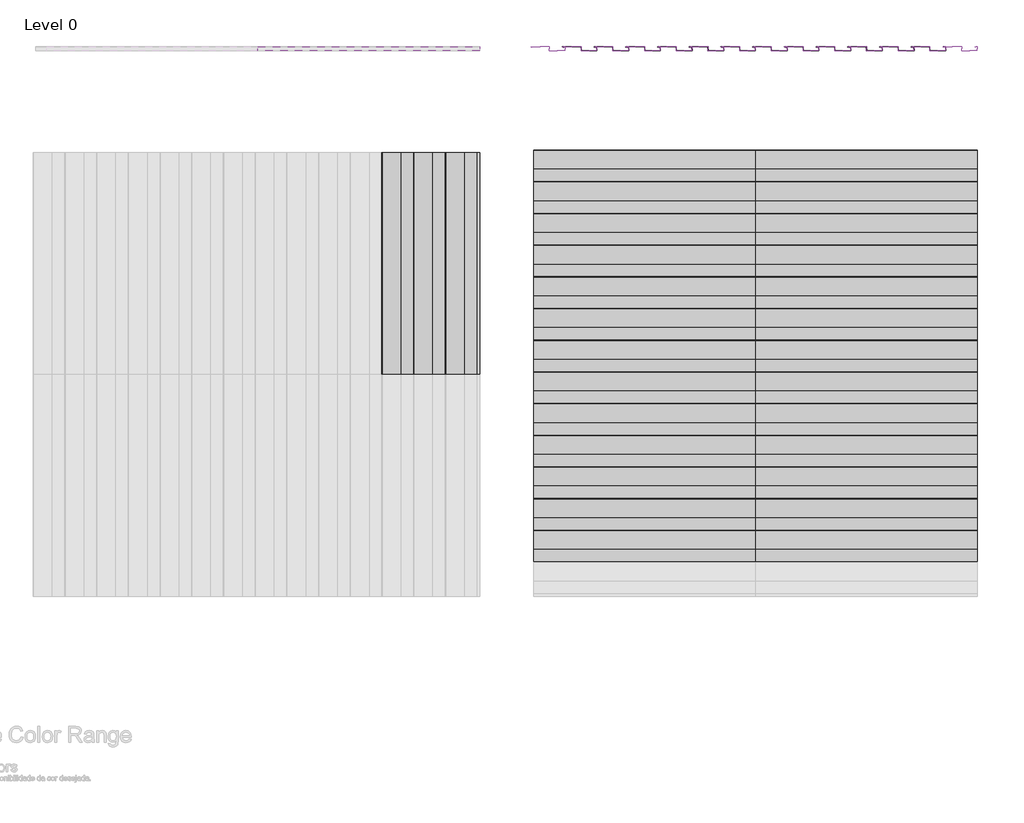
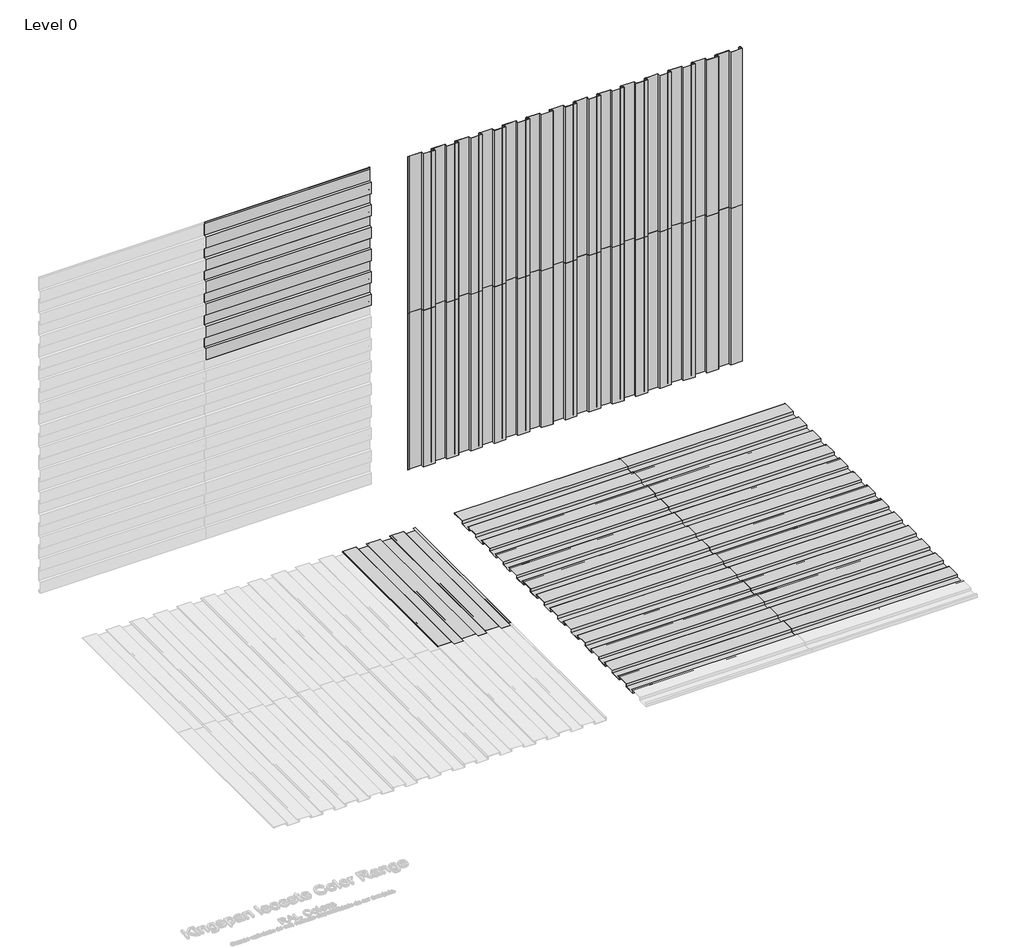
# One storey, part 2 of 2: 63 proxies.
"""IFC4 building model written with IfcOpenShell, lengths in millimetres."""

import ifcopenshell
import ifcopenshell.guid

model = None  # the IFC model being written
_history = None  # IfcOwnerHistory: only IFC2X3 demands one
_inside = {}  # id of a spatial element -> (the spatial element, [elements in it])
_under = {}  # id of a project, library or spatial element -> (it, [spatial elements below it])
_declared = {}  # id of a project -> (the project, [libraries it declares])
_typed = {}  # id of a type object -> (the type object, [elements of that type])
_made_of = {}  # id of a material, layer set ... -> (it, [elements and type objects made of it])


def new_model(schema):
    """Start an empty IFC model of exactly this schema.

    Asked for "IFC4X3", IfcOpenShell would pick the latest addendum, in which some entities
    have other attributes; the version numbers below select the first issue.
    IFC2X3 requires an IfcOwnerHistory on every rooted entity: one is made here for all.
    """
    global model, _history
    if schema == "IFC4X3":
        model = ifcopenshell.file(schema_version=(4, 3, 0, 0))
    else:
        model = ifcopenshell.file(schema=schema)
    _inside.clear()
    _under.clear()
    _declared.clear()
    _typed.clear()
    _made_of.clear()
    _history = None
    if model.schema == "IFC2X3":
        org = make("IfcOrganization", Name="unknown")
        user = make(
            "IfcPersonAndOrganization",
            ThePerson=make("IfcPerson", FamilyName="unknown"),
            TheOrganization=org,
        )
        app = make(
            "IfcApplication",
            ApplicationDeveloper=org,
            Version="unknown",
            ApplicationFullName="unknown",
            ApplicationIdentifier="unknown",
        )
        _history = make(
            "IfcOwnerHistory",
            OwningUser=user,
            OwningApplication=app,
            ChangeAction="ADDED",
            CreationDate=0,
        )
    return model


def make(cls, **values):
    """One entity of the class cls with the attributes given. An attribute that is None is left unset."""
    return model.create_entity(
        cls, **{name: value for name, value in values.items() if value is not None}
    )


def rooted(cls, **values):
    """An entity with a GlobalId (a new one), such as an element, a storey or a relation."""
    return make(cls, GlobalId=ifcopenshell.guid.new(), OwnerHistory=_history, **values)


def si_unit(unit_type, name, prefix=None):
    """IfcSIUnit, for example si_unit("LENGTHUNIT", "METRE", prefix="MILLI")."""
    return make("IfcSIUnit", UnitType=unit_type, Prefix=prefix, Name=name)


def assignment(units):
    """IfcUnitAssignment: the units of a project."""
    return None if units is None else make("IfcUnitAssignment", Units=units)


def point(xyz):
    """IfcCartesianPoint."""
    return None if xyz is None else make("IfcCartesianPoint", Coordinates=xyz)


def direction(xyz):
    """IfcDirection."""
    return None if xyz is None else make("IfcDirection", DirectionRatios=xyz)


def frame(location, z_axis=None, x_axis=None):
    """IfcAxis2Placement3D, a coordinate frame: its origin and axes. An axis left out is left unset."""
    return make(
        "IfcAxis2Placement3D",
        Location=point(location),
        Axis=direction(z_axis),
        RefDirection=direction(x_axis),
    )


def frame_2d(location, x_axis=None):
    """IfcAxis2Placement2D, a coordinate frame in the plane: its origin and x axis."""
    return make(
        "IfcAxis2Placement2D", Location=point(location), RefDirection=direction(x_axis)
    )


def origin():
    """The frame at (0, 0, 0) with its axes left unset."""
    return frame((0.0, 0.0, 0.0))


def place(relative_to, where):
    """IfcLocalPlacement: puts the frame where relative to a parent placement (None: the world)."""
    return make(
        "IfcLocalPlacement", PlacementRelTo=relative_to, RelativePlacement=where
    )


def context(
    kind, dimensions, precision=None, world=None, true_north=None, identifier=None
):
    """IfcGeometricRepresentationContext, for example the 3D "Model" context."""
    return make(
        "IfcGeometricRepresentationContext",
        ContextIdentifier=identifier,
        ContextType=kind,
        CoordinateSpaceDimension=dimensions,
        Precision=precision,
        WorldCoordinateSystem=world,
        TrueNorth=true_north,
    )


def project(units=None, contexts=None):
    """IfcProject with its units and contexts."""
    return rooted(
        "IfcProject",
        Name="project",
        RepresentationContexts=contexts,
        UnitsInContext=assignment(units),
    )


def spatial(cls, under=None, at=None, **own):
    """A site, building, storey or space (cls), placed at a placement, below another one or the project."""
    s = rooted(cls, ObjectPlacement=at, **own)
    if under is not None:
        _under.setdefault(under.id(), (under, []))[1].append(s)
    return s


def polyline(points):
    """IfcPolyline through the points."""
    return make("IfcPolyline", Points=[point(p) for p in points])


def circle_curve(where, radius):
    """IfcCircle in the frame where."""
    return make("IfcCircle", Position=where, Radius=radius)


def trimmed(basis, trim1, trim2, sense, master):
    """IfcTrimmedCurve: the piece of a basis curve between two trims."""
    return make(
        "IfcTrimmedCurve",
        BasisCurve=basis,
        Trim1=trim1,
        Trim2=trim2,
        SenseAgreement=sense,
        MasterRepresentation=master,
    )


def segment(curve, same_sense, transition):
    """IfcCompositeCurveSegment."""
    return make(
        "IfcCompositeCurveSegment",
        Transition=transition,
        SameSense=same_sense,
        ParentCurve=curve,
    )


def composite_curve(segments, self_intersect=None):
    """IfcCompositeCurve: segments joined end to end."""
    return make("IfcCompositeCurve", Segments=segments, SelfIntersect=self_intersect)


def outline(outer, holes=None, kind="AREA"):
    """IfcArbitraryClosedProfileDef: a profile drawn as a closed curve; with holes, ...WithVoids."""
    if holes is None:
        return make("IfcArbitraryClosedProfileDef", ProfileType=kind, OuterCurve=outer)
    return make(
        "IfcArbitraryProfileDefWithVoids",
        ProfileType=kind,
        OuterCurve=outer,
        InnerCurves=holes,
    )


def extrude(swept, where, along, depth):
    """IfcExtrudedAreaSolid: the profile swept, set in the frame where, extruded along a direction by depth."""
    return make(
        "IfcExtrudedAreaSolid",
        SweptArea=swept,
        Position=where,
        ExtrudedDirection=direction(along),
        Depth=depth,
    )


def shape(context_of_items, identifier, shape_type, items):
    """IfcShapeRepresentation: the items that make up one representation, for example the "Body"."""
    return make(
        "IfcShapeRepresentation",
        ContextOfItems=context_of_items,
        RepresentationIdentifier=identifier,
        RepresentationType=shape_type,
        Items=items,
    )


def source(mapping_origin, context_of_items, identifier, shape_type, items):
    """IfcRepresentationMap: a shape defined once, which mapped items show again and again."""
    return make(
        "IfcRepresentationMap",
        MappingOrigin=mapping_origin,
        MappedRepresentation=shape(context_of_items, identifier, shape_type, items),
    )


def transform(
    local_origin,
    x_axis=None,
    y_axis=None,
    z_axis=None,
    scale=None,
    scale2=None,
    scale3=None,
    uniform=True,
):
    """IfcCartesianTransformationOperator3D, or its non-uniform kind. x_axis, y_axis, z_axis: its Axis1, 2, 3."""
    if uniform:
        return make(
            "IfcCartesianTransformationOperator3D",
            Axis1=direction(x_axis),
            Axis2=direction(y_axis),
            LocalOrigin=point(local_origin),
            Scale=scale,
            Axis3=direction(z_axis),
        )
    return make(
        "IfcCartesianTransformationOperator3DnonUniform",
        Axis1=direction(x_axis),
        Axis2=direction(y_axis),
        LocalOrigin=point(local_origin),
        Scale=scale,
        Axis3=direction(z_axis),
        Scale2=scale2,
        Scale3=scale3,
    )


def mapped(mapping_source, mapping_target):
    """IfcMappedItem: shows the shape of a source again, moved by a transform."""
    return make(
        "IfcMappedItem", MappingSource=mapping_source, MappingTarget=mapping_target
    )


def made_of(thing, what):
    """Note that an element or type object is made of a material, layer set ...; save() writes the relation."""
    if what is not None:
        _made_of.setdefault(what.id(), (what, []))[1].append(thing)
    return thing


def element(
    cls,
    number,
    at=None,
    inside=None,
    cuts=None,
    type_object=None,
    material=None,
    context=None,
    identifier="Body",
    shape_type=None,
    held_by="IfcProductDefinitionShape",
    body=None,
    shapes=None,
    **own,
):
    """One element of the class cls, such as IfcWall. Its Tag is "e" and its number.

    at: its placement. inside: the storey or other place that contains it. cuts: it is an
    opening in that element (IfcRelVoidsElement). A single representation is given by context,
    identifier, shape_type and body (its items); several are given by shapes. held_by: the class
    of the entity that holds the representations. save() writes the other relations.
    """
    e = rooted(cls, Tag="e%d" % number, ObjectPlacement=at, **own)
    if body is not None:
        shapes = [shape(context, identifier, shape_type, body)]
    if shapes is not None:
        e.Representation = make(held_by, Representations=shapes)
    if inside is not None:
        _inside.setdefault(inside.id(), (inside, []))[1].append(e)
    if cuts is not None:
        rooted(
            "IfcRelVoidsElement", RelatingBuildingElement=cuts, RelatedOpeningElement=e
        )
    if type_object is not None:
        _typed.setdefault(type_object.id(), (type_object, []))[1].append(e)
    return made_of(e, material)


def aggregate(whole, parts):
    """IfcRelAggregates: a whole, such as a stair, and the parts it consists of."""
    return rooted("IfcRelAggregates", RelatingObject=whole, RelatedObjects=parts)


def save(model, path):
    """Write the relations noted so far, then the file.

    IfcRelAggregates (storeys below a building ...), IfcRelContainedInSpatialStructure (elements
    in a storey), IfcRelDefinesByType, IfcRelAssociatesMaterial and IfcRelDeclares: one each for
    every whole, place, type object, material and project.
    """
    for whole, parts in _under.values():
        aggregate(whole, parts)
    for where, things in _inside.values():
        rooted(
            "IfcRelContainedInSpatialStructure",
            RelatedElements=things,
            RelatingStructure=where,
        )
    for kind, things in _typed.values():
        rooted("IfcRelDefinesByType", RelatedObjects=things, RelatingType=kind)
    for what, things in _made_of.values():
        rooted("IfcRelAssociatesMaterial", RelatedObjects=things, RelatingMaterial=what)
    for by, libraries in _declared.values():
        rooted("IfcRelDeclares", RelatingContext=by, RelatedDefinitions=libraries)
    model.write(path)


def mx10_0_standard_panel_ns_11ffd0d8(model_context):
    return source(origin(), model_context, "Body", "SweptSolid", [
        extrude(outline(composite_curve([segment(polyline([(0.0, 0.0), (0.0, 38.0), (150.0, 38.0), (150.0, 0.0), (324.8317866, 0.0)]), True, "CONTINUOUS"), segment(trimmed(circle_curve(frame_2d((324.3094696, 0.9153551)), 1.0538928), [point((324.8317866, 0.0))], [point((324.8448691, 1.8231201))], True, "CARTESIAN"), True, "CONTINUOUS"), segment(polyline([(324.8448691, 1.8231201), (308.5989911, 4.94103), (308.7874714, 5.923107), (325.1748462, 2.778041)]), True, "CONTINUOUS"), segment(trimmed(circle_curve(frame_2d((324.3094696, 0.9153551)), 2.0538928), [point((325.1748462, 2.778041))], [point((325.0510156, -1.0))], False, "CARTESIAN"), True, "CONTINUOUS"), segment(polyline([(325.0510156, -1.0), (149.0, -1.0), (149.0, 37.0), (1.0, 37.0), (1.0, 1.0), (25.0, 1.0), (25.0, 0.0), (0.0, 0.0)]), True, "CONTINUOUS")], self_intersect=False)), frame((0.0, 0.0, 0.0), z_axis=(1.0, 0.0, 0.0), x_axis=(0.0, 1.0, 0.0)), (0.0, 0.0, 1.0), 2100.0),
    ])


def mx10_0_standard_panel_ns_1686077b(model_context):
    return source(origin(), model_context, "Body", "SweptSolid", [
        extrude(outline(composite_curve([segment(polyline([(0.0, 0.0), (25.0, 0.0), (25.0, -1.0), (1.0, -1.0), (1.0, -37.0), (149.0, -37.0), (149.0, 1.0), (325.0510156, 1.0)]), True, "CONTINUOUS"), segment(trimmed(circle_curve(frame_2d((324.3094696, -0.9153551)), 2.0538928), [point((325.0510156, 1.0))], [point((325.1748462, -2.778041))], False, "CARTESIAN"), True, "CONTINUOUS"), segment(polyline([(325.1748462, -2.778041), (308.7874714, -5.923107), (308.5989911, -4.94103), (324.8448691, -1.8231201)]), True, "CONTINUOUS"), segment(trimmed(circle_curve(frame_2d((324.3094696, -0.9153551)), 1.0538928), [point((324.8448691, -1.8231201))], [point((324.8317866, 0.0))], True, "CARTESIAN"), True, "CONTINUOUS"), segment(polyline([(324.8317866, 0.0), (150.0, 0.0), (150.0, -38.0), (0.0, -38.0), (0.0, 0.0)]), True, "CONTINUOUS")], self_intersect=False)), frame((0.0, 0.0, 0.0), z_axis=(1.0, 0.0, 0.0), x_axis=(0.0, 1.0, 0.0)), (0.0, 0.0, 1.0), 2100.0),
    ])


model = new_model("IFC4")

# Units and contexts
model_context = context("Model", 3, world=origin())
ifc_project = project(units=[si_unit("LENGTHUNIT", "METRE", prefix="MILLI")], contexts=[model_context])

# Site, building, storey
site = spatial("IfcSite", under=ifc_project)
building = spatial("IfcBuilding", under=site)
storey = spatial("IfcBuildingStorey", under=building, Name="Level 0", Elevation=0.0)

# Proxies
placement = place(None, origin())
mx10_0_standard_panel_ns_shape = mx10_0_standard_panel_ns_11ffd0d8(model_context)
element("IfcBuildingElementProxy", 1, Name="MX10.0 : Standard Panel_NS", ObjectType="MX10.0 : Standard Panel_NS", at=placement, inside=storey, context=model_context, shape_type="MappedRepresentation", body=[
    mapped(mx10_0_standard_panel_ns_shape, transform((3389.7088665, 5063.0274074, 0.0), x_axis=(0.0, 0.0, 1.0), y_axis=(-1.0, 0.0, 0.0), z_axis=(0.0, -1.0, 0.0))),
])
element("IfcBuildingElementProxy", 2, Name="MX10.0 : Standard Panel_NS", ObjectType="MX10.0 : Standard Panel_NS", at=placement, inside=storey, context=model_context, shape_type="MappedRepresentation", body=[
    mapped(mx10_0_standard_panel_ns_shape, transform((3389.7088665, 5063.0274074, 2100.0), x_axis=(0.0, 0.0, 1.0), y_axis=(-1.0, 0.0, 0.0), z_axis=(0.0, -1.0, 0.0))),
])
mx10_0_standard_panel_ns_2_shape = mx10_0_standard_panel_ns_1686077b(model_context)
element("IfcBuildingElementProxy", 3, Name="MX10.0 : Standard Panel_NS", ObjectType="MX10.0 : Standard Panel_NS", at=placement, inside=storey, context=model_context, shape_type="MappedRepresentation", body=[
    mapped(mx10_0_standard_panel_ns_2_shape, transform((1289.7088668, 1958.3113453, 0.0), x_axis=(1.0, 0.0, 0.0), y_axis=(0.0, 1.0, 0.0), z_axis=(0.0, 0.0, 1.0))),
])
element("IfcBuildingElementProxy", 4, Name="MX10.0 : Standard Panel_NS", ObjectType="MX10.0 : Standard Panel_NS", at=placement, inside=storey, context=model_context, shape_type="MappedRepresentation", body=[
    mapped(mx10_0_standard_panel_ns_2_shape, transform((3389.7088668, 1958.3113453, 0.0), x_axis=(1.0, 0.0, 0.0), y_axis=(0.0, 1.0, 0.0), z_axis=(0.0, 0.0, 1.0))),
])
element("IfcBuildingElementProxy", 5, Name="MX10.0 : Standard Panel_NS", ObjectType="MX10.0 : Standard Panel_NS", at=placement, inside=storey, context=model_context, shape_type="MappedRepresentation", body=[
    mapped(mx10_0_standard_panel_ns_shape, transform((3089.7088665, 5063.0274074, 0.0), x_axis=(0.0, 0.0, 1.0), y_axis=(-1.0, 0.0, 0.0), z_axis=(0.0, -1.0, 0.0))),
])
element("IfcBuildingElementProxy", 6, Name="MX10.0 : Standard Panel_NS", ObjectType="MX10.0 : Standard Panel_NS", at=placement, inside=storey, context=model_context, shape_type="MappedRepresentation", body=[
    mapped(mx10_0_standard_panel_ns_shape, transform((3089.7088665, 5063.0274074, 2100.0), x_axis=(0.0, 0.0, 1.0), y_axis=(-1.0, 0.0, 0.0), z_axis=(0.0, -1.0, 0.0))),
])
element("IfcBuildingElementProxy", 7, Name="MX10.0 : Standard Panel_NS", ObjectType="MX10.0 : Standard Panel_NS", at=placement, inside=storey, context=model_context, shape_type="MappedRepresentation", body=[
    mapped(mx10_0_standard_panel_ns_shape, transform((-1317.7637295, 5063.0274074, 2400.0), x_axis=(1.0, 0.0, 0.0), y_axis=(0.0, 0.0, 1.0), z_axis=(0.0, -1.0, 0.0))),
])
element("IfcBuildingElementProxy", 8, Name="MX10.0 : Standard Panel_NS", ObjectType="MX10.0 : Standard Panel_NS", at=placement, inside=storey, context=model_context, shape_type="MappedRepresentation", body=[
    mapped(mx10_0_standard_panel_ns_shape, transform((5489.7088666, 5063.0274074, 0.0), x_axis=(0.0, 0.0, 1.0), y_axis=(-1.0, 0.0, 0.0), z_axis=(0.0, -1.0, 0.0))),
])
element("IfcBuildingElementProxy", 9, Name="MX10.0 : Standard Panel_NS", ObjectType="MX10.0 : Standard Panel_NS", at=placement, inside=storey, context=model_context, shape_type="MappedRepresentation", body=[
    mapped(mx10_0_standard_panel_ns_shape, transform((5489.7088666, 5063.0274074, 2100.0), x_axis=(0.0, 0.0, 1.0), y_axis=(-1.0, 0.0, 0.0), z_axis=(0.0, -1.0, 0.0))),
])
element("IfcBuildingElementProxy", 10, Name="MX10.0 : Standard Panel_NS", ObjectType="MX10.0 : Standard Panel_NS", at=placement, inside=storey, context=model_context, shape_type="MappedRepresentation", body=[
    mapped(mx10_0_standard_panel_ns_2_shape, transform((1289.7088668, 2258.3113453, 0.0), x_axis=(1.0, 0.0, 0.0), y_axis=(0.0, 1.0, 0.0), z_axis=(0.0, 0.0, 1.0))),
])
element("IfcBuildingElementProxy", 11, Name="MX10.0 : Standard Panel_NS", ObjectType="MX10.0 : Standard Panel_NS", at=placement, inside=storey, context=model_context, shape_type="MappedRepresentation", body=[
    mapped(mx10_0_standard_panel_ns_2_shape, transform((782.2362705, 1958.3113453, 0.0), x_axis=(0.0, 1.0, 0.0), y_axis=(-1.0, 0.0, 0.0), z_axis=(0.0, 0.0, 1.0))),
])
element("IfcBuildingElementProxy", 12, Name="MX10.0 : Standard Panel_NS", ObjectType="MX10.0 : Standard Panel_NS", at=placement, inside=storey, context=model_context, shape_type="MappedRepresentation", body=[
    mapped(mx10_0_standard_panel_ns_2_shape, transform((3389.7088668, 2258.3113453, 0.0), x_axis=(1.0, 0.0, 0.0), y_axis=(0.0, 1.0, 0.0), z_axis=(0.0, 0.0, 1.0))),
])
element("IfcBuildingElementProxy", 13, Name="MX10.0 : Standard Panel_NS", ObjectType="MX10.0 : Standard Panel_NS", at=placement, inside=storey, context=model_context, shape_type="MappedRepresentation", body=[
    mapped(mx10_0_standard_panel_ns_2_shape, transform((1289.7088668, 1358.3113453, 0.0), x_axis=(1.0, 0.0, 0.0), y_axis=(0.0, 1.0, 0.0), z_axis=(0.0, 0.0, 1.0))),
])
element("IfcBuildingElementProxy", 14, Name="MX10.0 : Standard Panel_NS", ObjectType="MX10.0 : Standard Panel_NS", at=placement, inside=storey, context=model_context, shape_type="MappedRepresentation", body=[
    mapped(mx10_0_standard_panel_ns_2_shape, transform((1289.7088668, 3758.3113453, 0.0), x_axis=(1.0, 0.0, 0.0), y_axis=(0.0, 1.0, 0.0), z_axis=(0.0, 0.0, 1.0))),
])
element("IfcBuildingElementProxy", 15, Name="MX10.0 : Standard Panel_NS", ObjectType="MX10.0 : Standard Panel_NS", at=placement, inside=storey, context=model_context, shape_type="MappedRepresentation", body=[
    mapped(mx10_0_standard_panel_ns_2_shape, transform((3389.7088668, 1358.3113453, 0.0), x_axis=(1.0, 0.0, 0.0), y_axis=(0.0, 1.0, 0.0), z_axis=(0.0, 0.0, 1.0))),
])
element("IfcBuildingElementProxy", 16, Name="MX10.0 : Standard Panel_NS", ObjectType="MX10.0 : Standard Panel_NS", at=placement, inside=storey, context=model_context, shape_type="MappedRepresentation", body=[
    mapped(mx10_0_standard_panel_ns_2_shape, transform((3389.7088668, 3758.3113453, 0.0), x_axis=(1.0, 0.0, 0.0), y_axis=(0.0, 1.0, 0.0), z_axis=(0.0, 0.0, 1.0))),
])
element("IfcBuildingElementProxy", 17, Name="MX10.0 : Standard Panel_NS", ObjectType="MX10.0 : Standard Panel_NS", at=placement, inside=storey, context=model_context, shape_type="MappedRepresentation", body=[
    mapped(mx10_0_standard_panel_ns_shape, transform((1589.7088666, 5063.0274074, 0.0), x_axis=(0.0, 0.0, 1.0), y_axis=(-1.0, 0.0, 0.0), z_axis=(0.0, -1.0, 0.0))),
])
element("IfcBuildingElementProxy", 18, Name="MX10.0 : Standard Panel_NS", ObjectType="MX10.0 : Standard Panel_NS", at=placement, inside=storey, context=model_context, shape_type="MappedRepresentation", body=[
    mapped(mx10_0_standard_panel_ns_shape, transform((1589.7088666, 5063.0274074, 2100.0), x_axis=(0.0, 0.0, 1.0), y_axis=(-1.0, 0.0, 0.0), z_axis=(0.0, -1.0, 0.0))),
])
element("IfcBuildingElementProxy", 19, Name="MX10.0 : Standard Panel_NS", ObjectType="MX10.0 : Standard Panel_NS", at=placement, inside=storey, context=model_context, shape_type="MappedRepresentation", body=[
    mapped(mx10_0_standard_panel_ns_shape, transform((-1317.7637295, 5063.0274074, 3900.0), x_axis=(1.0, 0.0, 0.0), y_axis=(0.0, 0.0, 1.0), z_axis=(0.0, -1.0, 0.0))),
])
element("IfcBuildingElementProxy", 20, Name="MX10.0 : Standard Panel_NS", ObjectType="MX10.0 : Standard Panel_NS", at=placement, inside=storey, context=model_context, shape_type="MappedRepresentation", body=[
    mapped(mx10_0_standard_panel_ns_shape, transform((3989.7088665, 5063.0274074, 0.0), x_axis=(0.0, 0.0, 1.0), y_axis=(-1.0, 0.0, 0.0), z_axis=(0.0, -1.0, 0.0))),
])
element("IfcBuildingElementProxy", 21, Name="MX10.0 : Standard Panel_NS", ObjectType="MX10.0 : Standard Panel_NS", at=placement, inside=storey, context=model_context, shape_type="MappedRepresentation", body=[
    mapped(mx10_0_standard_panel_ns_shape, transform((3989.7088665, 5063.0274074, 2100.0), x_axis=(0.0, 0.0, 1.0), y_axis=(-1.0, 0.0, 0.0), z_axis=(0.0, -1.0, 0.0))),
])
element("IfcBuildingElementProxy", 22, Name="MX10.0 : Standard Panel_NS", ObjectType="MX10.0 : Standard Panel_NS", at=placement, inside=storey, context=model_context, shape_type="MappedRepresentation", body=[
    mapped(mx10_0_standard_panel_ns_shape, transform((2789.7088665, 5063.0274074, 0.0), x_axis=(0.0, 0.0, 1.0), y_axis=(-1.0, 0.0, 0.0), z_axis=(0.0, -1.0, 0.0))),
])
element("IfcBuildingElementProxy", 23, Name="MX10.0 : Standard Panel_NS", ObjectType="MX10.0 : Standard Panel_NS", at=placement, inside=storey, context=model_context, shape_type="MappedRepresentation", body=[
    mapped(mx10_0_standard_panel_ns_shape, transform((2789.7088665, 5063.0274074, 2100.0), x_axis=(0.0, 0.0, 1.0), y_axis=(-1.0, 0.0, 0.0), z_axis=(0.0, -1.0, 0.0))),
])
element("IfcBuildingElementProxy", 24, Name="MX10.0 : Standard Panel_NS", ObjectType="MX10.0 : Standard Panel_NS", at=placement, inside=storey, context=model_context, shape_type="MappedRepresentation", body=[
    mapped(mx10_0_standard_panel_ns_shape, transform((-1317.7637295, 5063.0274074, 2700.0), x_axis=(1.0, 0.0, 0.0), y_axis=(0.0, 0.0, 1.0), z_axis=(0.0, -1.0, 0.0))),
])
element("IfcBuildingElementProxy", 25, Name="MX10.0 : Standard Panel_NS", ObjectType="MX10.0 : Standard Panel_NS", at=placement, inside=storey, context=model_context, shape_type="MappedRepresentation", body=[
    mapped(mx10_0_standard_panel_ns_shape, transform((5189.7088665, 5063.0274074, 0.0), x_axis=(0.0, 0.0, 1.0), y_axis=(-1.0, 0.0, 0.0), z_axis=(0.0, -1.0, 0.0))),
])
element("IfcBuildingElementProxy", 26, Name="MX10.0 : Standard Panel_NS", ObjectType="MX10.0 : Standard Panel_NS", at=placement, inside=storey, context=model_context, shape_type="MappedRepresentation", body=[
    mapped(mx10_0_standard_panel_ns_shape, transform((5189.7088665, 5063.0274074, 2100.0), x_axis=(0.0, 0.0, 1.0), y_axis=(-1.0, 0.0, 0.0), z_axis=(0.0, -1.0, 0.0))),
])
element("IfcBuildingElementProxy", 27, Name="MX10.0 : Standard Panel_NS", ObjectType="MX10.0 : Standard Panel_NS", at=placement, inside=storey, context=model_context, shape_type="MappedRepresentation", body=[
    mapped(mx10_0_standard_panel_ns_shape, transform((2489.7088665, 5063.0274074, 0.0), x_axis=(0.0, 0.0, 1.0), y_axis=(-1.0, 0.0, 0.0), z_axis=(0.0, -1.0, 0.0))),
])
element("IfcBuildingElementProxy", 28, Name="MX10.0 : Standard Panel_NS", ObjectType="MX10.0 : Standard Panel_NS", at=placement, inside=storey, context=model_context, shape_type="MappedRepresentation", body=[
    mapped(mx10_0_standard_panel_ns_shape, transform((2489.7088665, 5063.0274074, 2100.0), x_axis=(0.0, 0.0, 1.0), y_axis=(-1.0, 0.0, 0.0), z_axis=(0.0, -1.0, 0.0))),
])
element("IfcBuildingElementProxy", 29, Name="MX10.0 : Standard Panel_NS", ObjectType="MX10.0 : Standard Panel_NS", at=placement, inside=storey, context=model_context, shape_type="MappedRepresentation", body=[
    mapped(mx10_0_standard_panel_ns_shape, transform((-1317.7637295, 5063.0274074, 3000.0), x_axis=(1.0, 0.0, 0.0), y_axis=(0.0, 0.0, 1.0), z_axis=(0.0, -1.0, 0.0))),
])
element("IfcBuildingElementProxy", 30, Name="MX10.0 : Standard Panel_NS", ObjectType="MX10.0 : Standard Panel_NS", at=placement, inside=storey, context=model_context, shape_type="MappedRepresentation", body=[
    mapped(mx10_0_standard_panel_ns_shape, transform((4889.7088665, 5063.0274074, 0.0), x_axis=(0.0, 0.0, 1.0), y_axis=(-1.0, 0.0, 0.0), z_axis=(0.0, -1.0, 0.0))),
])
element("IfcBuildingElementProxy", 31, Name="MX10.0 : Standard Panel_NS", ObjectType="MX10.0 : Standard Panel_NS", at=placement, inside=storey, context=model_context, shape_type="MappedRepresentation", body=[
    mapped(mx10_0_standard_panel_ns_shape, transform((4889.7088665, 5063.0274074, 2100.0), x_axis=(0.0, 0.0, 1.0), y_axis=(-1.0, 0.0, 0.0), z_axis=(0.0, -1.0, 0.0))),
])
element("IfcBuildingElementProxy", 32, Name="MX10.0 : Standard Panel_NS", ObjectType="MX10.0 : Standard Panel_NS", at=placement, inside=storey, context=model_context, shape_type="MappedRepresentation", body=[
    mapped(mx10_0_standard_panel_ns_shape, transform((2189.7088665, 5063.0274074, 0.0), x_axis=(0.0, 0.0, 1.0), y_axis=(-1.0, 0.0, 0.0), z_axis=(0.0, -1.0, 0.0))),
])
element("IfcBuildingElementProxy", 33, Name="MX10.0 : Standard Panel_NS", ObjectType="MX10.0 : Standard Panel_NS", at=placement, inside=storey, context=model_context, shape_type="MappedRepresentation", body=[
    mapped(mx10_0_standard_panel_ns_shape, transform((2189.7088665, 5063.0274074, 2100.0), x_axis=(0.0, 0.0, 1.0), y_axis=(-1.0, 0.0, 0.0), z_axis=(0.0, -1.0, 0.0))),
])
element("IfcBuildingElementProxy", 34, Name="MX10.0 : Standard Panel_NS", ObjectType="MX10.0 : Standard Panel_NS", at=placement, inside=storey, context=model_context, shape_type="MappedRepresentation", body=[
    mapped(mx10_0_standard_panel_ns_shape, transform((-1317.7637295, 5063.0274074, 3300.0), x_axis=(1.0, 0.0, 0.0), y_axis=(0.0, 0.0, 1.0), z_axis=(0.0, -1.0, 0.0))),
])
element("IfcBuildingElementProxy", 35, Name="MX10.0 : Standard Panel_NS", ObjectType="MX10.0 : Standard Panel_NS", at=placement, inside=storey, context=model_context, shape_type="MappedRepresentation", body=[
    mapped(mx10_0_standard_panel_ns_shape, transform((4589.7088665, 5063.0274074, 0.0), x_axis=(0.0, 0.0, 1.0), y_axis=(-1.0, 0.0, 0.0), z_axis=(0.0, -1.0, 0.0))),
])
element("IfcBuildingElementProxy", 36, Name="MX10.0 : Standard Panel_NS", ObjectType="MX10.0 : Standard Panel_NS", at=placement, inside=storey, context=model_context, shape_type="MappedRepresentation", body=[
    mapped(mx10_0_standard_panel_ns_shape, transform((4589.7088665, 5063.0274074, 2100.0), x_axis=(0.0, 0.0, 1.0), y_axis=(-1.0, 0.0, 0.0), z_axis=(0.0, -1.0, 0.0))),
])
element("IfcBuildingElementProxy", 37, Name="MX10.0 : Standard Panel_NS", ObjectType="MX10.0 : Standard Panel_NS", at=placement, inside=storey, context=model_context, shape_type="MappedRepresentation", body=[
    mapped(mx10_0_standard_panel_ns_shape, transform((1889.7088665, 5063.0274074, 0.0), x_axis=(0.0, 0.0, 1.0), y_axis=(-1.0, 0.0, 0.0), z_axis=(0.0, -1.0, 0.0))),
])
element("IfcBuildingElementProxy", 38, Name="MX10.0 : Standard Panel_NS", ObjectType="MX10.0 : Standard Panel_NS", at=placement, inside=storey, context=model_context, shape_type="MappedRepresentation", body=[
    mapped(mx10_0_standard_panel_ns_shape, transform((1889.7088665, 5063.0274074, 2100.0), x_axis=(0.0, 0.0, 1.0), y_axis=(-1.0, 0.0, 0.0), z_axis=(0.0, -1.0, 0.0))),
])
element("IfcBuildingElementProxy", 39, Name="MX10.0 : Standard Panel_NS", ObjectType="MX10.0 : Standard Panel_NS", at=placement, inside=storey, context=model_context, shape_type="MappedRepresentation", body=[
    mapped(mx10_0_standard_panel_ns_shape, transform((-1317.7637295, 5063.0274074, 3600.0), x_axis=(1.0, 0.0, 0.0), y_axis=(0.0, 0.0, 1.0), z_axis=(0.0, -1.0, 0.0))),
])
element("IfcBuildingElementProxy", 40, Name="MX10.0 : Standard Panel_NS", ObjectType="MX10.0 : Standard Panel_NS", at=placement, inside=storey, context=model_context, shape_type="MappedRepresentation", body=[
    mapped(mx10_0_standard_panel_ns_shape, transform((4289.7088665, 5063.0274074, 0.0), x_axis=(0.0, 0.0, 1.0), y_axis=(-1.0, 0.0, 0.0), z_axis=(0.0, -1.0, 0.0))),
])
element("IfcBuildingElementProxy", 41, Name="MX10.0 : Standard Panel_NS", ObjectType="MX10.0 : Standard Panel_NS", at=placement, inside=storey, context=model_context, shape_type="MappedRepresentation", body=[
    mapped(mx10_0_standard_panel_ns_shape, transform((4289.7088665, 5063.0274074, 2100.0), x_axis=(0.0, 0.0, 1.0), y_axis=(-1.0, 0.0, 0.0), z_axis=(0.0, -1.0, 0.0))),
])
element("IfcBuildingElementProxy", 42, Name="MX10.0 : Standard Panel_NS", ObjectType="MX10.0 : Standard Panel_NS", at=placement, inside=storey, context=model_context, shape_type="MappedRepresentation", body=[
    mapped(mx10_0_standard_panel_ns_shape, transform((3689.7088665, 5063.0274074, 0.0), x_axis=(0.0, 0.0, 1.0), y_axis=(-1.0, 0.0, 0.0), z_axis=(0.0, -1.0, 0.0))),
])
element("IfcBuildingElementProxy", 43, Name="MX10.0 : Standard Panel_NS", ObjectType="MX10.0 : Standard Panel_NS", at=placement, inside=storey, context=model_context, shape_type="MappedRepresentation", body=[
    mapped(mx10_0_standard_panel_ns_shape, transform((3689.7088665, 5063.0274074, 2100.0), x_axis=(0.0, 0.0, 1.0), y_axis=(-1.0, 0.0, 0.0), z_axis=(0.0, -1.0, 0.0))),
])
element("IfcBuildingElementProxy", 44, Name="MX10.0 : Standard Panel_NS", ObjectType="MX10.0 : Standard Panel_NS", at=placement, inside=storey, context=model_context, shape_type="MappedRepresentation", body=[
    mapped(mx10_0_standard_panel_ns_2_shape, transform((1289.7088668, 158.3113453, 0.0), x_axis=(1.0, 0.0, 0.0), y_axis=(0.0, 1.0, 0.0), z_axis=(0.0, 0.0, 1.0))),
])
element("IfcBuildingElementProxy", 45, Name="MX10.0 : Standard Panel_NS", ObjectType="MX10.0 : Standard Panel_NS", at=placement, inside=storey, context=model_context, shape_type="MappedRepresentation", body=[
    mapped(mx10_0_standard_panel_ns_2_shape, transform((1289.7088668, 2558.3113453, 0.0), x_axis=(1.0, 0.0, 0.0), y_axis=(0.0, 1.0, 0.0), z_axis=(0.0, 0.0, 1.0))),
])
element("IfcBuildingElementProxy", 46, Name="MX10.0 : Standard Panel_NS", ObjectType="MX10.0 : Standard Panel_NS", at=placement, inside=storey, context=model_context, shape_type="MappedRepresentation", body=[
    mapped(mx10_0_standard_panel_ns_2_shape, transform((482.2362703, 1958.3113453, 0.0), x_axis=(0.0, 1.0, 0.0), y_axis=(-1.0, 0.0, 0.0), z_axis=(0.0, 0.0, 1.0))),
])
element("IfcBuildingElementProxy", 47, Name="MX10.0 : Standard Panel_NS", ObjectType="MX10.0 : Standard Panel_NS", at=placement, inside=storey, context=model_context, shape_type="MappedRepresentation", body=[
    mapped(mx10_0_standard_panel_ns_2_shape, transform((3389.7088668, 158.3113453, 0.0), x_axis=(1.0, 0.0, 0.0), y_axis=(0.0, 1.0, 0.0), z_axis=(0.0, 0.0, 1.0))),
])
element("IfcBuildingElementProxy", 48, Name="MX10.0 : Standard Panel_NS", ObjectType="MX10.0 : Standard Panel_NS", at=placement, inside=storey, context=model_context, shape_type="MappedRepresentation", body=[
    mapped(mx10_0_standard_panel_ns_2_shape, transform((3389.7088668, 2558.3113453, 0.0), x_axis=(1.0, 0.0, 0.0), y_axis=(0.0, 1.0, 0.0), z_axis=(0.0, 0.0, 1.0))),
])
element("IfcBuildingElementProxy", 49, Name="MX10.0 : Standard Panel_NS", ObjectType="MX10.0 : Standard Panel_NS", at=placement, inside=storey, context=model_context, shape_type="MappedRepresentation", body=[
    mapped(mx10_0_standard_panel_ns_2_shape, transform((1289.7088668, 458.3113453, 0.0), x_axis=(1.0, 0.0, 0.0), y_axis=(0.0, 1.0, 0.0), z_axis=(0.0, 0.0, 1.0))),
])
element("IfcBuildingElementProxy", 50, Name="MX10.0 : Standard Panel_NS", ObjectType="MX10.0 : Standard Panel_NS", at=placement, inside=storey, context=model_context, shape_type="MappedRepresentation", body=[
    mapped(mx10_0_standard_panel_ns_2_shape, transform((1289.7088668, 2858.3113453, 0.0), x_axis=(1.0, 0.0, 0.0), y_axis=(0.0, 1.0, 0.0), z_axis=(0.0, 0.0, 1.0))),
])
element("IfcBuildingElementProxy", 51, Name="MX10.0 : Standard Panel_NS", ObjectType="MX10.0 : Standard Panel_NS", at=placement, inside=storey, context=model_context, shape_type="MappedRepresentation", body=[
    mapped(mx10_0_standard_panel_ns_2_shape, transform((182.2362703, 1958.3113453, 0.0), x_axis=(0.0, 1.0, 0.0), y_axis=(-1.0, 0.0, 0.0), z_axis=(0.0, 0.0, 1.0))),
])
element("IfcBuildingElementProxy", 52, Name="MX10.0 : Standard Panel_NS", ObjectType="MX10.0 : Standard Panel_NS", at=placement, inside=storey, context=model_context, shape_type="MappedRepresentation", body=[
    mapped(mx10_0_standard_panel_ns_2_shape, transform((3389.7088668, 458.3113453, 0.0), x_axis=(1.0, 0.0, 0.0), y_axis=(0.0, 1.0, 0.0), z_axis=(0.0, 0.0, 1.0))),
])
element("IfcBuildingElementProxy", 53, Name="MX10.0 : Standard Panel_NS", ObjectType="MX10.0 : Standard Panel_NS", at=placement, inside=storey, context=model_context, shape_type="MappedRepresentation", body=[
    mapped(mx10_0_standard_panel_ns_2_shape, transform((3389.7088668, 2858.3113453, 0.0), x_axis=(1.0, 0.0, 0.0), y_axis=(0.0, 1.0, 0.0), z_axis=(0.0, 0.0, 1.0))),
])
element("IfcBuildingElementProxy", 54, Name="MX10.0 : Standard Panel_NS", ObjectType="MX10.0 : Standard Panel_NS", at=placement, inside=storey, context=model_context, shape_type="MappedRepresentation", body=[
    mapped(mx10_0_standard_panel_ns_2_shape, transform((1289.7088668, 758.3113453, 0.0), x_axis=(1.0, 0.0, 0.0), y_axis=(0.0, 1.0, 0.0), z_axis=(0.0, 0.0, 1.0))),
])
element("IfcBuildingElementProxy", 55, Name="MX10.0 : Standard Panel_NS", ObjectType="MX10.0 : Standard Panel_NS", at=placement, inside=storey, context=model_context, shape_type="MappedRepresentation", body=[
    mapped(mx10_0_standard_panel_ns_2_shape, transform((1289.7088668, 3158.3113453, 0.0), x_axis=(1.0, 0.0, 0.0), y_axis=(0.0, 1.0, 0.0), z_axis=(0.0, 0.0, 1.0))),
])
element("IfcBuildingElementProxy", 56, Name="MX10.0 : Standard Panel_NS", ObjectType="MX10.0 : Standard Panel_NS", at=placement, inside=storey, context=model_context, shape_type="MappedRepresentation", body=[
    mapped(mx10_0_standard_panel_ns_2_shape, transform((3389.7088668, 758.3113453, 0.0), x_axis=(1.0, 0.0, 0.0), y_axis=(0.0, 1.0, 0.0), z_axis=(0.0, 0.0, 1.0))),
])
element("IfcBuildingElementProxy", 57, Name="MX10.0 : Standard Panel_NS", ObjectType="MX10.0 : Standard Panel_NS", at=placement, inside=storey, context=model_context, shape_type="MappedRepresentation", body=[
    mapped(mx10_0_standard_panel_ns_2_shape, transform((3389.7088668, 3158.3113453, 0.0), x_axis=(1.0, 0.0, 0.0), y_axis=(0.0, 1.0, 0.0), z_axis=(0.0, 0.0, 1.0))),
])
element("IfcBuildingElementProxy", 58, Name="MX10.0 : Standard Panel_NS", ObjectType="MX10.0 : Standard Panel_NS", at=placement, inside=storey, context=model_context, shape_type="MappedRepresentation", body=[
    mapped(mx10_0_standard_panel_ns_2_shape, transform((1289.7088668, 1058.3113453, 0.0), x_axis=(1.0, 0.0, 0.0), y_axis=(0.0, 1.0, 0.0), z_axis=(0.0, 0.0, 1.0))),
])
element("IfcBuildingElementProxy", 59, Name="MX10.0 : Standard Panel_NS", ObjectType="MX10.0 : Standard Panel_NS", at=placement, inside=storey, context=model_context, shape_type="MappedRepresentation", body=[
    mapped(mx10_0_standard_panel_ns_2_shape, transform((1289.7088668, 3458.3113453, 0.0), x_axis=(1.0, 0.0, 0.0), y_axis=(0.0, 1.0, 0.0), z_axis=(0.0, 0.0, 1.0))),
])
element("IfcBuildingElementProxy", 60, Name="MX10.0 : Standard Panel_NS", ObjectType="MX10.0 : Standard Panel_NS", at=placement, inside=storey, context=model_context, shape_type="MappedRepresentation", body=[
    mapped(mx10_0_standard_panel_ns_2_shape, transform((3389.7088668, 1058.3113453, 0.0), x_axis=(1.0, 0.0, 0.0), y_axis=(0.0, 1.0, 0.0), z_axis=(0.0, 0.0, 1.0))),
])
element("IfcBuildingElementProxy", 61, Name="MX10.0 : Standard Panel_NS", ObjectType="MX10.0 : Standard Panel_NS", at=placement, inside=storey, context=model_context, shape_type="MappedRepresentation", body=[
    mapped(mx10_0_standard_panel_ns_2_shape, transform((3389.7088668, 3458.3113453, 0.0), x_axis=(1.0, 0.0, 0.0), y_axis=(0.0, 1.0, 0.0), z_axis=(0.0, 0.0, 1.0))),
])
element("IfcBuildingElementProxy", 62, Name="MX10.0 : Standard Panel_NS", ObjectType="MX10.0 : Standard Panel_NS", at=placement, inside=storey, context=model_context, shape_type="MappedRepresentation", body=[
    mapped(mx10_0_standard_panel_ns_2_shape, transform((1289.7088668, 1658.3113453, 0.0), x_axis=(1.0, 0.0, 0.0), y_axis=(0.0, 1.0, 0.0), z_axis=(0.0, 0.0, 1.0))),
])
element("IfcBuildingElementProxy", 63, Name="MX10.0 : Standard Panel_NS", ObjectType="MX10.0 : Standard Panel_NS", at=placement, inside=storey, context=model_context, shape_type="MappedRepresentation", body=[
    mapped(mx10_0_standard_panel_ns_2_shape, transform((3389.7088668, 1658.3113453, 0.0), x_axis=(1.0, 0.0, 0.0), y_axis=(0.0, 1.0, 0.0), z_axis=(0.0, 0.0, 1.0))),
])

save(model, "model.ifc")
